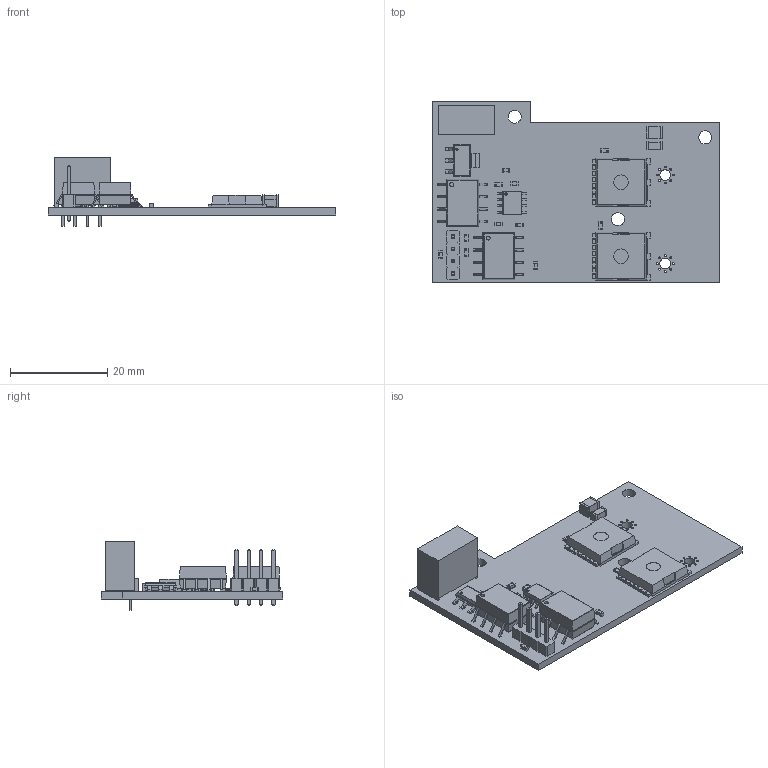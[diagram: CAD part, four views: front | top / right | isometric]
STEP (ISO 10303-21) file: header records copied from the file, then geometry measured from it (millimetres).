
FILE_DESCRIPTION(('KiCad electronic assembly'),'2;1');
FILE_NAME('singlePhasePower_Rounded.step','2022-11-27T16:00:46',( 'An Author'),('A Company'),'Open CASCADE STEP processor 6.9', 'KiCad to STEP converter','Unknown');
FILE_SCHEMA(('AUTOMOTIVE_DESIGN { 1 0 10303 214 1 1 1 1 }'));
Length unit declared in the file: millimetre
Products named in the file (22): Open CASCADE STEP translator 6.9 1; C_0603_1608Metric; SOLID; R_0603_1608Metric; PinHeader_1x04_P2.54mm_Vertical; TEA_1-0505; COMPOUND; AZ1117IH-5.0TRG1; 6N137S; FDBL86066-F085; IX4427NTR; C_1206_3216Metric; C_1210_3225Metric
Assembly tree (32 placements, depth 3):
  Open CASCADE STEP translator 6.9 1
    C_0603_1608Metric  x5
      SOLID
    R_0603_1608Metric  x6
      SOLID
    PinHeader_1x04_P2.54mm_Vertical
      SOLID
    TEA_1-0505
      COMPOUND
    AZ1117IH-5.0TRG1
      COMPOUND
    6N137S  x2
      COMPOUND
    FDBL86066-F085  x2
      COMPOUND
    IX4427NTR
      COMPOUND
    C_1206_3216Metric
      SOLID
    C_1210_3225Metric
      SOLID
    COMPOUND
Bounding box: 59.25 x 37.5 x 14.2 mm (x, y, z)
Volume: 5116.2 mm3; surface area: 7151.4 mm2
Topology: 56 solids, 56 shells, 1280 faces, 3252 edges, 2108 vertices
Faces by surface type: plane 995, cylinder 285
Full cylindrical faces by diameter (mm): 0.4 x16, 0.438 x1, 0.487 x1, 0.76 x4, 0.826 x2, 1 x4, 2.2 x2, 2.7 x3
Entity records: 50759 total; most frequent: CARTESIAN_POINT 9127, DIRECTION 7390, LINE 5092, VECTOR 5092, ORIENTED_EDGE 3816, PCURVE 3816, DEFINITIONAL_REPRESENTATION 3816, EDGE_CURVE 1908
